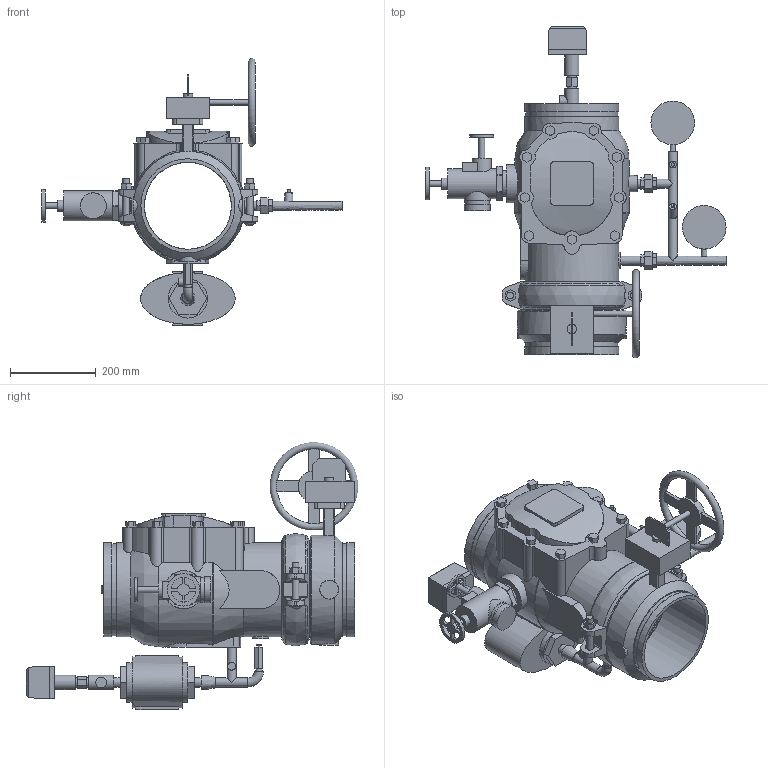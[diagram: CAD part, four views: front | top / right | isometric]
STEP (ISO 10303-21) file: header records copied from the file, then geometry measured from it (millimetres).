
FILE_DESCRIPTION(/* description */ ('VIC FP VALVE ALARM CHECK SERIES 751 (OGS)','CAx-IF Rec.Pracs.---Representation and Presentation of Product Manufacturing Information (PMI)---4.0---2014-10-13'),/* implementation_level */ '2;1');
FILE_NAME(/* name */ 'C:\Users\Vjadhav\AppData\Roaming\Autodesk\ApplicationPlugins\Victaulic.Temp\A404\Victaulic_FP_Valve Alarm Check_Series 751 (OGS)-European Trim_8 (200).stp',/* time_stamp */ '2021-04-19T16:30:04+05:00',/* author */ ('VJadhav'),/* organization */ ('Victaulic'),/* preprocessor_version */ 'ST-DEVELOPER v17.2',/* originating_system */ 'Autodesk Inventor 2019',/* authorisation */ '');
FILE_SCHEMA (('AP242_MANAGED_MODEL_BASED_3D_ENGINEERING_MIM_LF { 1 0 10303 442 1 1 4 }'));
Length unit declared in the file: inch
Products named in the file (4): 751-08.0; 009N-08.0; 705-08.0; 751-08.0_1
Assembly tree (3 placements, depth 2):
  751-08.0
    009N-08.0
    705-08.0
    751-08.0_1
Bounding box: 698.75 x 773.27 x 622.9 mm (x, y, z)
Volume: 14989829.1 mm3; surface area: 1634967.5 mm2
Topology: 6 solids, 7 shells, 593 faces, 1545 edges, 1045 vertices
Faces by surface type: plane 381, cylinder 186, bspline 8, cone 8, torus 8, sphere 2
Full cylindrical faces by diameter (mm): 5 x1, 7.62 x2, 8.636 x4, 10 x1, 12.7 x4, 14 x2, 15.24 x1, 15.875 x4, 16.256 x1, 18.7 x1, 18.796 x1, 21.336 x11, 22.86 x2, 25 x1, 26 x1, 27.381 x2, 33.02 x2, 38.1 x3, 43.688 x3, 44 x1, 55 x1, 55.118 x1, 57.15 x1, 60.325 x4, 69.85 x1, 72.39 x1, 76 x1, 88.9 x1, 91.44 x2, 101.6 x2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
Entity records: 21495 total; most frequent: CARTESIAN_POINT 5841, ORIENTED_EDGE 3090, DIRECTION 3023, EDGE_CURVE 1545, AXIS2_PLACEMENT_3D 1052, VERTEX_POINT 1045, LINE 919, VECTOR 919
